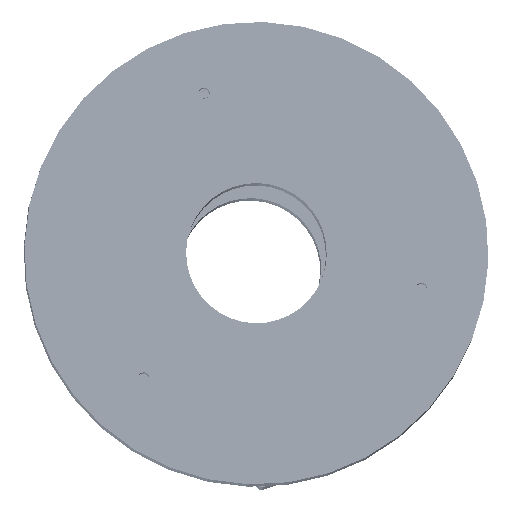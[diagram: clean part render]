
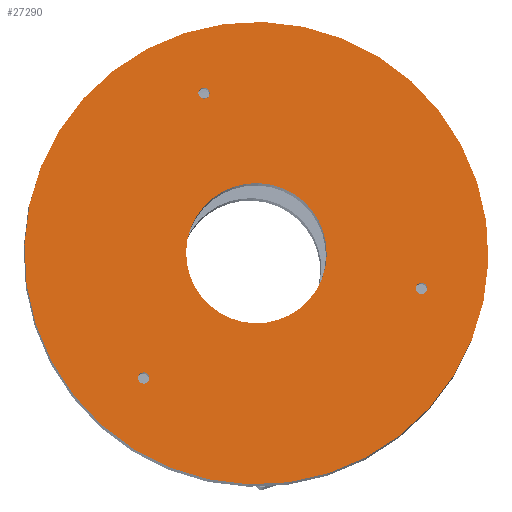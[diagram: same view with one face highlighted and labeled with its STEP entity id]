
A CAD part, front view. The second image highlights one B-rep face of the part: STEP entity #27290.
In plain terms, the highlighted planar face has unit normal (0.03, -0.996, 0.087) as drawn and (0, -1, 0) by its records, which use the part's own axes.
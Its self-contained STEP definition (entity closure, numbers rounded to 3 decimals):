
#265 = DIRECTION ( 'NONE',  ( 0., 1., 0. ) ) ;
#438 = DIRECTION ( 'NONE',  ( 0., 1., 0. ) ) ;
#519 = VERTEX_POINT ( 'NONE', #41693 ) ;
#535 = DIRECTION ( 'NONE',  ( 0., 0., 1. ) ) ;
#1602 = CARTESIAN_POINT ( 'NONE',  ( -50.351, 0., -15.285 ) ) ;
#2681 = VERTEX_POINT ( 'NONE', #40695 ) ;
#2801 = AXIS2_PLACEMENT_3D ( 'NONE', #16673, #23544, #45662 ) ;
#3275 = VERTEX_POINT ( 'NONE', #18365 ) ;
#3706 = DIRECTION ( 'NONE',  ( 0., 0., 1. ) ) ;
#4395 = FACE_BOUND ( 'NONE', #40456, .T. ) ;
#4437 = AXIS2_PLACEMENT_3D ( 'NONE', #29960, #19061, #44888 ) ;
#4682 = CIRCLE ( 'NONE', #7708, 2. ) ;
#4822 = PLANE ( 'NONE',  #26899 ) ;
#4982 = FACE_BOUND ( 'NONE', #29653, .T. ) ;
#5889 = ORIENTED_EDGE ( 'NONE', *, *, #38034, .T. ) ;
#6289 = CARTESIAN_POINT ( 'NONE',  ( -102.313, 0., -45.285 ) ) ;
#6359 = CARTESIAN_POINT ( 'NONE',  ( 1.61, 0., -43.285 ) ) ;
#6454 = DIRECTION ( 'NONE',  ( 0., 0., 1. ) ) ;
#6767 = CIRCLE ( 'NONE', #4437, 2. ) ;
#7625 = CARTESIAN_POINT ( 'NONE',  ( -50.351, 0., -97.785 ) ) ;
#7708 = AXIS2_PLACEMENT_3D ( 'NONE', #22429, #438, #8172 ) ;
#8172 = DIRECTION ( 'NONE',  ( 0., 0., 1. ) ) ;
#8664 = VERTEX_POINT ( 'NONE', #28714 ) ;
#10322 = DIRECTION ( 'NONE',  ( 0., 1., 0. ) ) ;
#10929 = EDGE_LOOP ( 'NONE', ( #44097, #47428 ) ) ;
#11382 = VERTEX_POINT ( 'NONE', #39522 ) ;
#11388 = CARTESIAN_POINT ( 'NONE',  ( -50.351, 0., 44.715 ) ) ;
#11880 = FACE_BOUND ( 'NONE', #32140, .T. ) ;
#13019 = FACE_OUTER_BOUND ( 'NONE', #10929, .T. ) ;
#13609 = EDGE_CURVE ( 'NONE', #29659, #8664, #30714, .T. ) ;
#14352 = EDGE_CURVE ( 'NONE', #519, #24371, #34657, .T. ) ;
#14853 = VERTEX_POINT ( 'NONE', #43246 ) ;
#15811 = CARTESIAN_POINT ( 'NONE',  ( -50.351, 0., -40.285 ) ) ;
#16113 = EDGE_CURVE ( 'NONE', #36990, #2681, #41939, .T. ) ;
#16673 = CARTESIAN_POINT ( 'NONE',  ( -50.351, 0., -15.285 ) ) ;
#17098 = AXIS2_PLACEMENT_3D ( 'NONE', #21925, #18257, #18095 ) ;
#17539 = CARTESIAN_POINT ( 'NONE',  ( -50.351, 0., -15.285 ) ) ;
#18095 = DIRECTION ( 'NONE',  ( 0., 0., 1. ) ) ;
#18257 = DIRECTION ( 'NONE',  ( 0., 1., 0. ) ) ;
#18365 = CARTESIAN_POINT ( 'NONE',  ( -50.351, 0., 46.715 ) ) ;
#19061 = DIRECTION ( 'NONE',  ( 0., 1., 0. ) ) ;
#20023 = ORIENTED_EDGE ( 'NONE', *, *, #14352, .T. ) ;
#21925 = CARTESIAN_POINT ( 'NONE',  ( -50.351, 0., -15.285 ) ) ;
#22295 = CARTESIAN_POINT ( 'NONE',  ( 1.61, 0., -45.285 ) ) ;
#22429 = CARTESIAN_POINT ( 'NONE',  ( -102.313, 0., -45.285 ) ) ;
#22485 = CIRCLE ( 'NONE', #2801, 25. ) ;
#23544 = DIRECTION ( 'NONE',  ( 0., 1., 0. ) ) ;
#24371 = VERTEX_POINT ( 'NONE', #36236 ) ;
#25551 = CARTESIAN_POINT ( 'NONE',  ( -50.351, 0., -15.285 ) ) ;
#25583 = DIRECTION ( 'NONE',  ( 0., 0., 1. ) ) ;
#26033 = DIRECTION ( 'NONE',  ( 0., 1., 0. ) ) ;
#26534 = AXIS2_PLACEMENT_3D ( 'NONE', #11388, #265, #44845 ) ;
#26662 = EDGE_CURVE ( 'NONE', #8664, #29659, #6767, .T. ) ;
#26899 = AXIS2_PLACEMENT_3D ( 'NONE', #1602, #27268, #34467 ) ;
#27268 = DIRECTION ( 'NONE',  ( 0., 1., 0. ) ) ;
#27290 = ADVANCED_FACE ( 'NONE', ( #4982, #11880, #4395, #13019, #42238 ), #4822, .F. ) ;
#27858 = CIRCLE ( 'NONE', #17098, 82.5 ) ;
#27957 = AXIS2_PLACEMENT_3D ( 'NONE', #6289, #31945, #46512 ) ;
#28714 = CARTESIAN_POINT ( 'NONE',  ( 1.61, 0., -47.285 ) ) ;
#29649 = DIRECTION ( 'NONE',  ( 0., 1., 0. ) ) ;
#29653 = EDGE_LOOP ( 'NONE', ( #32834, #36090 ) ) ;
#29659 = VERTEX_POINT ( 'NONE', #6359 ) ;
#29960 = CARTESIAN_POINT ( 'NONE',  ( 1.61, 0., -45.285 ) ) ;
#30116 = CIRCLE ( 'NONE', #40483, 82.5 ) ;
#30714 = CIRCLE ( 'NONE', #42341, 2. ) ;
#31021 = EDGE_CURVE ( 'NONE', #2681, #36990, #22485, .T. ) ;
#31945 = DIRECTION ( 'NONE',  ( 0., 1., 0. ) ) ;
#32140 = EDGE_LOOP ( 'NONE', ( #42999, #45672 ) ) ;
#32710 = EDGE_LOOP ( 'NONE', ( #33603, #33411 ) ) ;
#32834 = ORIENTED_EDGE ( 'NONE', *, *, #13609, .T. ) ;
#33411 = ORIENTED_EDGE ( 'NONE', *, *, #31021, .T. ) ;
#33603 = ORIENTED_EDGE ( 'NONE', *, *, #16113, .T. ) ;
#33697 = EDGE_CURVE ( 'NONE', #3275, #11382, #45816, .T. ) ;
#34467 = DIRECTION ( 'NONE',  ( 0., 0., 1. ) ) ;
#34657 = CIRCLE ( 'NONE', #27957, 2. ) ;
#35994 = EDGE_CURVE ( 'NONE', #14853, #46551, #30116, .T. ) ;
#36090 = ORIENTED_EDGE ( 'NONE', *, *, #26662, .T. ) ;
#36236 = CARTESIAN_POINT ( 'NONE',  ( -102.313, 0., -43.285 ) ) ;
#36990 = VERTEX_POINT ( 'NONE', #15811 ) ;
#38034 = EDGE_CURVE ( 'NONE', #24371, #519, #4682, .T. ) ;
#38398 = AXIS2_PLACEMENT_3D ( 'NONE', #39883, #40201, #25583 ) ;
#38441 = CIRCLE ( 'NONE', #38398, 2. ) ;
#39331 = EDGE_CURVE ( 'NONE', #11382, #3275, #38441, .T. ) ;
#39522 = CARTESIAN_POINT ( 'NONE',  ( -50.351, 0., 42.715 ) ) ;
#39724 = AXIS2_PLACEMENT_3D ( 'NONE', #17539, #10322, #6454 ) ;
#39883 = CARTESIAN_POINT ( 'NONE',  ( -50.351, 0., 44.715 ) ) ;
#40201 = DIRECTION ( 'NONE',  ( 0., 1., 0. ) ) ;
#40456 = EDGE_LOOP ( 'NONE', ( #5889, #20023 ) ) ;
#40483 = AXIS2_PLACEMENT_3D ( 'NONE', #25551, #26033, #535 ) ;
#40695 = CARTESIAN_POINT ( 'NONE',  ( -50.351, 0., 9.715 ) ) ;
#41693 = CARTESIAN_POINT ( 'NONE',  ( -102.313, 0., -47.285 ) ) ;
#41939 = CIRCLE ( 'NONE', #39724, 25. ) ;
#42238 = FACE_BOUND ( 'NONE', #32710, .T. ) ;
#42341 = AXIS2_PLACEMENT_3D ( 'NONE', #22295, #29649, #3706 ) ;
#42999 = ORIENTED_EDGE ( 'NONE', *, *, #33697, .T. ) ;
#43029 = EDGE_CURVE ( 'NONE', #46551, #14853, #27858, .T. ) ;
#43246 = CARTESIAN_POINT ( 'NONE',  ( -50.351, 0., 67.215 ) ) ;
#44097 = ORIENTED_EDGE ( 'NONE', *, *, #43029, .F. ) ;
#44845 = DIRECTION ( 'NONE',  ( 0., 0., 1. ) ) ;
#44888 = DIRECTION ( 'NONE',  ( 0., 0., 1. ) ) ;
#45662 = DIRECTION ( 'NONE',  ( 0., 0., 1. ) ) ;
#45672 = ORIENTED_EDGE ( 'NONE', *, *, #39331, .T. ) ;
#45816 = CIRCLE ( 'NONE', #26534, 2. ) ;
#46512 = DIRECTION ( 'NONE',  ( 0., 0., 1. ) ) ;
#46551 = VERTEX_POINT ( 'NONE', #7625 ) ;
#47428 = ORIENTED_EDGE ( 'NONE', *, *, #35994, .F. ) ;
